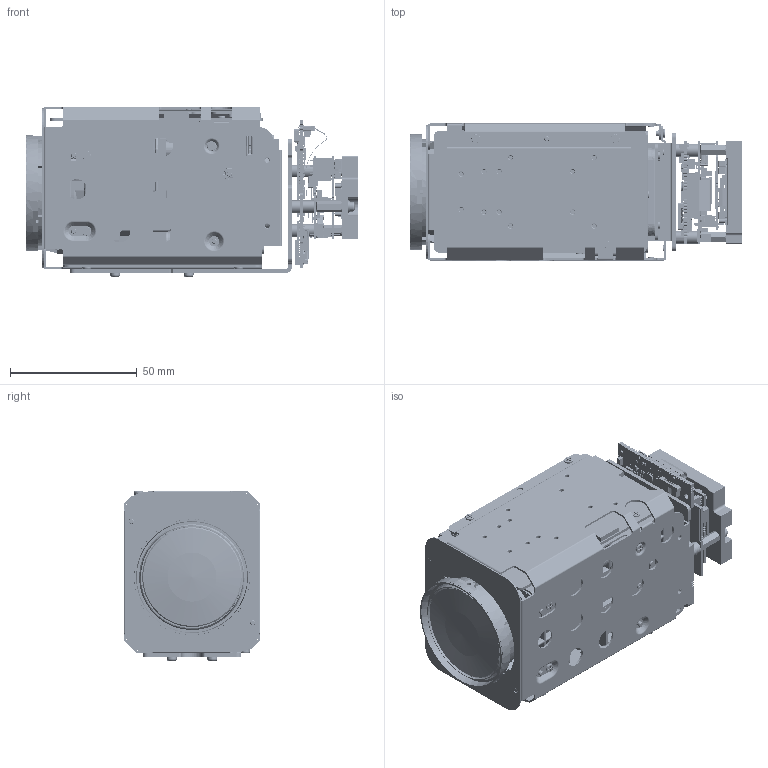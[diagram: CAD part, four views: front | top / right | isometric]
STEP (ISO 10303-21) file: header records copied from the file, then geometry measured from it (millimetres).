
FILE_DESCRIPTION( ( 'Unknown' ), '1' );
FILE_NAME( 'Q:/2003/Product3DCADModels/STEP-test/mm-ap29c01-0141-0101.stp', 'Unknown', ( 'Unknown' ), ( 'Unknown' ), 'PSStep 17.0.49', 'Unknown', ' ' );
FILE_SCHEMA( ( 'AUTOMOTIVE_DESIGN { 1 0 10303 214 1 1 1 1 }' ) );
Length unit declared in the file: millimetre
Products named in the file (753): DF033N0000-129-_X2_5F8C90E893E1_ASM; _X2_5F8C90E893E17B52_X0__1_4; _X2_5F8C90E893E17B52_X0__2_4; _X2_5F8C90E893E17B52_X0__3_4; _X2_30B230FC30C8_X0__1_4; _X2_30B230FC30C8_X0__2_4; _X2_30B230FC30C8_X0__3_4; Lead-2; Open_CASCADE_STEP_translator_6.8_1.2.1; DF033N0000-771-IR_X2_30E130FC30_ASM; _X2_30EC30D030FC_X0_2__X2_306E7; _X2_53D64ED890E8_X0__4; _X2_30A830F330B830F3_X0___X2_30; Lead-4; Lead-3; DF033N0000-A08-_X2_5F8C90E893E1_ASM; Lead-7; Lead; DF033N0000-A09-_X2_30D530A330EB_ASM; DF033N0000-151-_X2_30D530A330EB; DF02800000-G14-IRC_X2_30D530A33; DF02800000-G15-_X2_30C030DF30FC; DF033N0000-316-_X2_76EE96A03057_ASM; 1_0_X2_664265B95411_X0___X2_7C9; 1_0_X2_664265B95411_X0___X2_906; 2__X2_FF13664265B95411_X-324876; 2__X2_FF13664265B95411_X-325158; 3__X2_FF19664265B95411_X-325308; 3__X2_FF19664265B95411_X-325458; Lead-5; DF033N0000-A02-1_X2_7FA4_X0_ASS_ASM; DF03300000-G01-G01_4; DF033N0000-121-_1_X2_7FA430EC30; DF033N0000-Y01-_X2_5B8C621054C1_ASM; _X2_591689B3752830AB30D730C-211; _X2_591689B3752830AB30D730C-363; _X2_591689B3752830AB30D730C-513; _X2_591689B3752830AB30D730C-653; Lead-1; Lead-6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
Assembly tree (1690 placements, depth 8):
  Assem1
    G-806-048H  x4
    flexi-01
    G-875-322T  x3
    G-106-321A  x3
    heatsink-0389-02
    G-977-016Z  x3
    G-915-068V  x3
    G-080-752R  x3
    bracket-assy
      bracket-0378-02
      G-373-916V  x3
      G-513-075C  x3
    AS-CAM-40LHD
      000_40LHD_ASM_409_ASM
        355037038_PLATE_BRACKET_180
        360037020_RUBBER_SENSOR_50
        71B687110_PCB_SENSOR_100
        837102062_TS_CH_M2X6_6  x3
        365837060S_SPACER_BRKT_PCB_128
        837002042A_TS_CH_M2X4_2  x5
        PCB_MAIN_40LHD_114
        817002032_MS_CH_M2X3_3  x4
        323037112S_CHASSIS_BOTTOM_126
        323037110S_CHASSIS_TOP_129
        817002032A_MS_CH_M2X3_2  x7
        363037018_SHEET_CHASSIS_5
        DF033N0000-ALLASSY_ASM_17_ASM
          DF033N0000-A01-_X2_5B8C621054C1_ASM
            DF033N0000-127-_X2_4E3B93E17B52
            DF033N0000-401-_X2_30DE30A630F3
            DF033N0000-711-_X2_30A230A430EA
            DF033N0000-731-ZA_X2_30B930C630
            DF033N0000-741-ZB_X2_30B930C630  x2
            DF033N0000-751-F_X2_30B930C630C
            DF016NJ000-176F-M2WASHER_4  x4
            ND011F0-419-QR_X2_30B730FC30EB_
            BT2P1_7X4_0C3C_4  x13
            BT2P1_7X5_0B3C_4  x16
            BT2P1_4X2_5B3C_4  x11
            DF033N0000-Y01-_X2_5B8C621054C1_ASM
              _X2_591689B3752830AB30D730C-211
              _X2_591689B3752830AB30D730C-363
              _X2_591689B3752830AB30D730C-513
              _X2_591689B3752830AB30D730C-653
            DF033N0000-A02-1_X2_7FA4_X0_ASS_ASM
              DF03300000-G01-G01_4
              DF033N0000-121-_1_X2_7FA430EC30
            DF033N0000-A08-_X2_5F8C90E893E1_ASM
              DF033N0000-129-_X2_5F8C90E893E1_ASM
                _X2_5F8C90E893E17B52_X0__1_4
                _X2_5F8C90E893E17B52_X0__2_4
                _X2_5F8C90E893E17B52_X0__3_4
                _X2_30B230FC30C8_X0__1_4
                _X2_30B230FC30C8_X0__2_4
                _X2_30B230FC30C8_X0__3_4
            DF033N0000-A09-_X2_30D530A330EB_ASM
              DF033N0000-151-_X2_30D530A330EB
              DF02800000-G14-IRC_X2_30D530A33
              DF02800000-G15-_X2_30C030DF30FC
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Bounding box: 131.03 x 54 x 67.14 mm (x, y, z)
Volume: 103458.3 mm3; surface area: 207211.2 mm2
Topology: 1287 solids, 1288 shells, 31704 faces, 80118 edges, 50924 vertices
Faces by surface type: plane 20301, cylinder 6953, torus 1227, bspline 1187, cone 1179, sphere 597, revolution 165, extrusion 95
Full cylindrical faces by diameter (mm): 0.041 x1, 0.1 x184, 0.15 x1, 0.2 x2, 0.25 x1, 0.5 x1, 0.519 x1, 0.6 x8, 0.7 x12, 0.75 x16, 0.8 x8, 0.9 x8, 1 x4, 1.09 x1, 1.1 x2, 1.12 x2, 1.15 x11, 1.2 x9, 1.4 x13, 1.45 x35, 1.5 x67, 1.567 x3, 1.6 x57, 1.7 x38, 1.8 x21, 1.85 x5, 1.9 x8, 2 x72, 2.013 x4, 2.1 x6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
Entity records: 882817 total; most frequent: CARTESIAN_POINT 204783, DIRECTION 101562, ORIENTED_EDGE 101469, EDGE_CURVE 50735, AXIS2_PLACEMENT_3D 34548, VERTEX_POINT 32700, VECTOR 32406, LINE 32311
